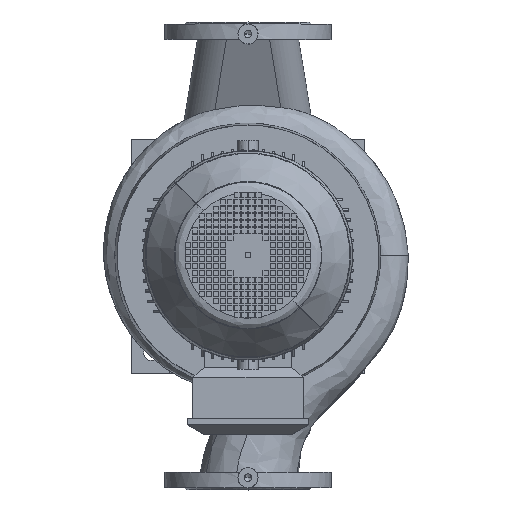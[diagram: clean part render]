
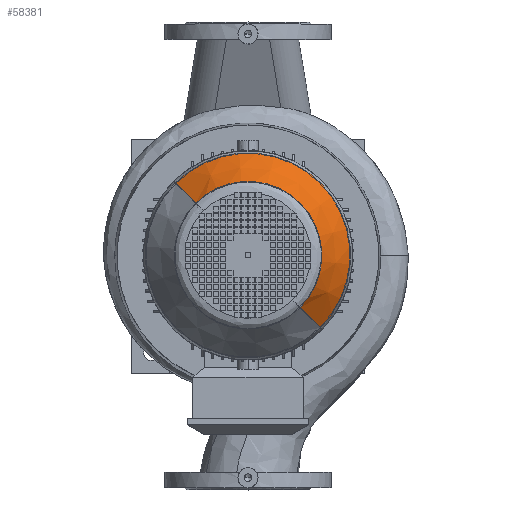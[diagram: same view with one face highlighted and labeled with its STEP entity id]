
A CAD part, top view. The second image highlights one B-rep face of the part: STEP entity #58381.
In plain terms, the highlighted conical face has half-angle 34.992 degrees and reference radius 153.385 mm.
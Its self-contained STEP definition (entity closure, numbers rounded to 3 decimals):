
#177 = CARTESIAN_POINT ( 'NONE',  ( -153.385, 0., 93.165 ) ) ;
#476 = FACE_OUTER_BOUND ( 'NONE', #53907, .T. ) ;
#1729 = VECTOR ( 'NONE', #20889, 1000. ) ;
#4139 = LINE ( 'NONE', #177, #34180 ) ;
#5783 = DIRECTION ( 'NONE',  ( -1., 0., 0. ) ) ;
#6821 = VERTEX_POINT ( 'NONE', #35778 ) ;
#10869 = CARTESIAN_POINT ( 'NONE',  ( 153.385, 0., 93.165 ) ) ;
#10880 = AXIS2_PLACEMENT_3D ( 'NONE', #11837, #65555, #37763 ) ;
#11604 = CARTESIAN_POINT ( 'NONE',  ( -153.385, 0., 93.165 ) ) ;
#11837 = CARTESIAN_POINT ( 'NONE',  ( 0., 0., 93.165 ) ) ;
#11956 = ORIENTED_EDGE ( 'NONE', *, *, #50612, .T. ) ;
#15712 = DIRECTION ( 'NONE',  ( -1., 0., 0. ) ) ;
#17238 = VERTEX_POINT ( 'NONE', #52800 ) ;
#17512 = CONICAL_SURFACE ( 'NONE', #53987, 153.385, 0.611 ) ;
#19453 = CARTESIAN_POINT ( 'NONE',  ( -110.472, 0., 154.469 ) ) ;
#20889 = DIRECTION ( 'NONE',  ( 0.573, 0., -0.819 ) ) ;
#25601 = DIRECTION ( 'NONE',  ( -0.573, 0., -0.819 ) ) ;
#26210 = DIRECTION ( 'NONE',  ( 0., 0., -1. ) ) ;
#26420 = CARTESIAN_POINT ( 'NONE',  ( 0., 0., 93.165 ) ) ;
#26975 = AXIS2_PLACEMENT_3D ( 'NONE', #36873, #47368, #15712 ) ;
#28127 = ORIENTED_EDGE ( 'NONE', *, *, #63720, .F. ) ;
#32002 = ORIENTED_EDGE ( 'NONE', *, *, #39404, .T. ) ;
#34180 = VECTOR ( 'NONE', #25601, 1000. ) ;
#35778 = CARTESIAN_POINT ( 'NONE',  ( 110.472, 0., 154.469 ) ) ;
#36873 = CARTESIAN_POINT ( 'NONE',  ( 0., 0., 154.469 ) ) ;
#37763 = DIRECTION ( 'NONE',  ( 1., 0., 0. ) ) ;
#38318 = LINE ( 'NONE', #10869, #1729 ) ;
#39404 = EDGE_CURVE ( 'NONE', #6821, #50560, #63130, .T. ) ;
#40865 = ORIENTED_EDGE ( 'NONE', *, *, #48427, .F. ) ;
#47368 = DIRECTION ( 'NONE',  ( 0., 0., -1. ) ) ;
#48378 = VERTEX_POINT ( 'NONE', #11604 ) ;
#48427 = EDGE_CURVE ( 'NONE', #17238, #48378, #57389, .T. ) ;
#50560 = VERTEX_POINT ( 'NONE', #19453 ) ;
#50612 = EDGE_CURVE ( 'NONE', #50560, #48378, #4139, .T. ) ;
#52800 = CARTESIAN_POINT ( 'NONE',  ( 153.385, 0., 93.165 ) ) ;
#53907 = EDGE_LOOP ( 'NONE', ( #28127, #32002, #11956, #40865 ) ) ;
#53987 = AXIS2_PLACEMENT_3D ( 'NONE', #26420, #26210, #5783 ) ;
#57389 = CIRCLE ( 'NONE', #10880, 153.385 ) ;
#58381 = ADVANCED_FACE ( 'NONE', ( #476 ), #17512, .T. ) ;
#63130 = CIRCLE ( 'NONE', #26975, 110.472 ) ;
#63720 = EDGE_CURVE ( 'NONE', #6821, #17238, #38318, .T. ) ;
#65555 = DIRECTION ( 'NONE',  ( 0., 0., -1. ) ) ;
